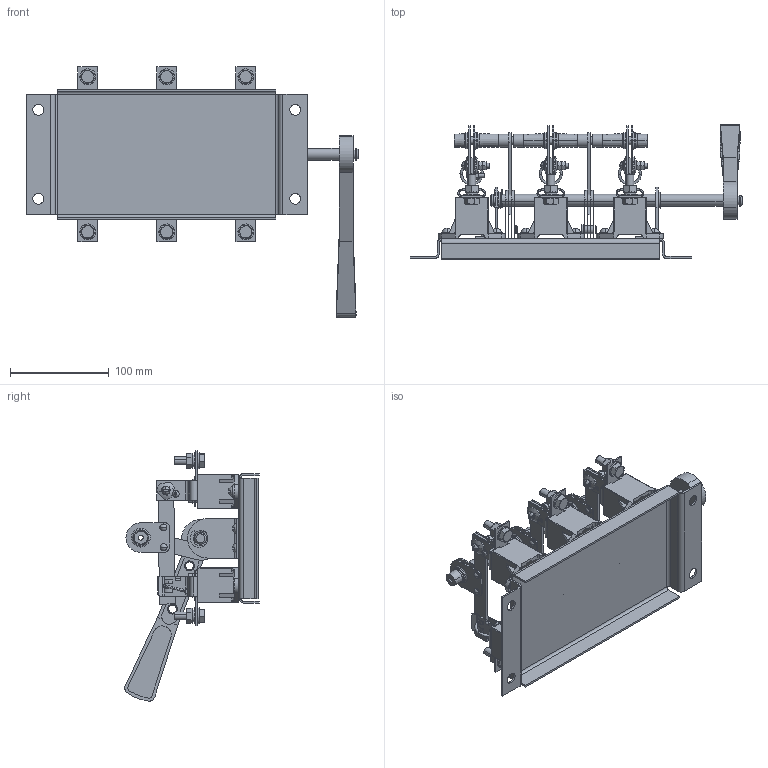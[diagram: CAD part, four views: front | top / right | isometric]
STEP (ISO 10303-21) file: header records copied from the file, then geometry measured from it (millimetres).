
FILE_DESCRIPTION (( 'STEP AP214' ), '1' );
FILE_NAME ('Ðàçúåäèíèòåëü ÐÅ19-31-31120-100À-ÓÕË3-ÊÝÀÇ.STEP', '2023-08-17T07:01:12', ( '' ), ( '' ), 'SwSTEP 2.0', 'SolidWorks 2018', '' );
FILE_SCHEMA (( 'AUTOMOTIVE_DESIGN' ));
Length unit declared in the file: millimetre
Products named in the file (1): Ðàçúåäèíèòåëü ÐÅ19-31-31120-100À-ÓÕË3-ÊÝÀÇ
Bounding box: 336 x 136.09 x 253.29 mm (x, y, z)
Surface area: 318384.5 mm2 (no closed solid volume)
Topology: 0 solids, 1006 shells, 3651 faces, 14660 edges, 11930 vertices
Faces by surface type: plane 2730, cylinder 660, cone 82, sphere 74, torus 70, bspline 35
Entity records: 193540 total; most frequent: CARTESIAN_POINT 38579, DIRECTION 22718, ORIENTED_EDGE 19273, EDGE_CURVE 14619, VERTEX_POINT 11906, LINE 10528, VECTOR 10528, AXIS2_PLACEMENT_3D 6095
